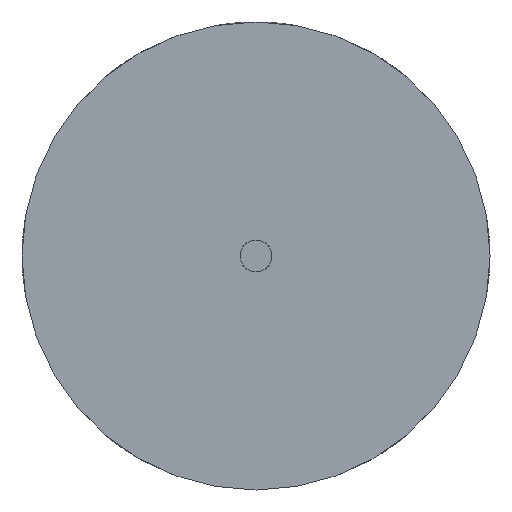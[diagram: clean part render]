
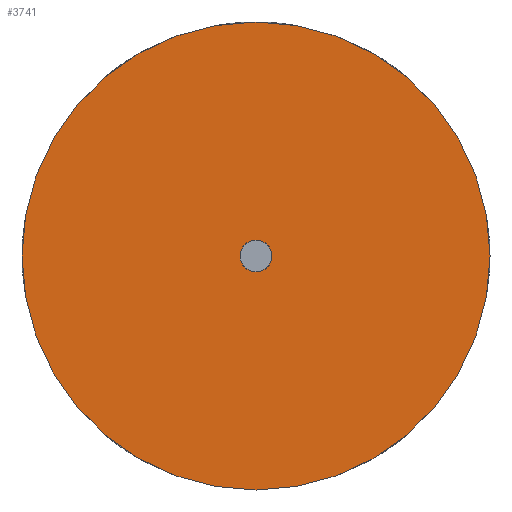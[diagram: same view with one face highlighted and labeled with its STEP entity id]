
A CAD part, front view. The second image highlights one B-rep face of the part: STEP entity #3741.
In plain terms, the highlighted planar face has unit normal (0, -1, 0).
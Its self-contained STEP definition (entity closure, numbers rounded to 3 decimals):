
#208 = DIRECTION ( 'NONE',  ( 0., 0., 1. ) ) ;
#252 = AXIS2_PLACEMENT_3D ( 'NONE', #2215, #5104, #2162 ) ;
#315 = ORIENTED_EDGE ( 'NONE', *, *, #5528, .F. ) ;
#414 = CARTESIAN_POINT ( 'NONE',  ( 0., 0., -88. ) ) ;
#431 = EDGE_LOOP ( 'NONE', ( #315, #4034 ) ) ;
#707 = DIRECTION ( 'NONE',  ( 0., -1., 0. ) ) ;
#813 = FACE_OUTER_BOUND ( 'NONE', #431, .T. ) ;
#1245 = DIRECTION ( 'NONE',  ( 0., 0., 1. ) ) ;
#1732 = VERTEX_POINT ( 'NONE', #5967 ) ;
#1857 = AXIS2_PLACEMENT_3D ( 'NONE', #5053, #707, #4115 ) ;
#2162 = DIRECTION ( 'NONE',  ( 0., 0., -1. ) ) ;
#2179 = CARTESIAN_POINT ( 'NONE',  ( 0., 0., 88. ) ) ;
#2215 = CARTESIAN_POINT ( 'NONE',  ( 0., 0., 0. ) ) ;
#2235 = AXIS2_PLACEMENT_3D ( 'NONE', #2341, #6296, #4812 ) ;
#2288 = CARTESIAN_POINT ( 'NONE',  ( 0., 0., 0. ) ) ;
#2341 = CARTESIAN_POINT ( 'NONE',  ( 0., 0., 0. ) ) ;
#2391 = EDGE_LOOP ( 'NONE', ( #5933, #2571 ) ) ;
#2571 = ORIENTED_EDGE ( 'NONE', *, *, #5961, .F. ) ;
#2670 = CARTESIAN_POINT ( 'NONE',  ( 0., 0., 0. ) ) ;
#2685 = DIRECTION ( 'NONE',  ( 0., 1., 0. ) ) ;
#2740 = EDGE_CURVE ( 'NONE', #4873, #1732, #4295, .T. ) ;
#3045 = CIRCLE ( 'NONE', #3181, 88. ) ;
#3181 = AXIS2_PLACEMENT_3D ( 'NONE', #2670, #2685, #208 ) ;
#3737 = CARTESIAN_POINT ( 'NONE',  ( 0., 0., -6. ) ) ;
#3741 = ADVANCED_FACE ( 'NONE', ( #5675, #813 ), #4323, .F. ) ;
#3861 = VERTEX_POINT ( 'NONE', #414 ) ;
#4021 = EDGE_CURVE ( 'NONE', #4739, #3861, #3045, .T. ) ;
#4034 = ORIENTED_EDGE ( 'NONE', *, *, #4021, .F. ) ;
#4111 = CIRCLE ( 'NONE', #252, 6. ) ;
#4115 = DIRECTION ( 'NONE',  ( 0., 0., -1. ) ) ;
#4202 = DIRECTION ( 'NONE',  ( 0., 1., 0. ) ) ;
#4295 = CIRCLE ( 'NONE', #1857, 6. ) ;
#4323 = PLANE ( 'NONE',  #2235 ) ;
#4464 = AXIS2_PLACEMENT_3D ( 'NONE', #2288, #4202, #1245 ) ;
#4739 = VERTEX_POINT ( 'NONE', #2179 ) ;
#4812 = DIRECTION ( 'NONE',  ( 0., 0., 1. ) ) ;
#4873 = VERTEX_POINT ( 'NONE', #3737 ) ;
#5053 = CARTESIAN_POINT ( 'NONE',  ( 0., 0., 0. ) ) ;
#5104 = DIRECTION ( 'NONE',  ( 0., -1., 0. ) ) ;
#5528 = EDGE_CURVE ( 'NONE', #3861, #4739, #5809, .T. ) ;
#5675 = FACE_BOUND ( 'NONE', #2391, .T. ) ;
#5809 = CIRCLE ( 'NONE', #4464, 88. ) ;
#5933 = ORIENTED_EDGE ( 'NONE', *, *, #2740, .F. ) ;
#5961 = EDGE_CURVE ( 'NONE', #1732, #4873, #4111, .T. ) ;
#5967 = CARTESIAN_POINT ( 'NONE',  ( 0., 0., 6. ) ) ;
#6296 = DIRECTION ( 'NONE',  ( 0., 1., 0. ) ) ;
